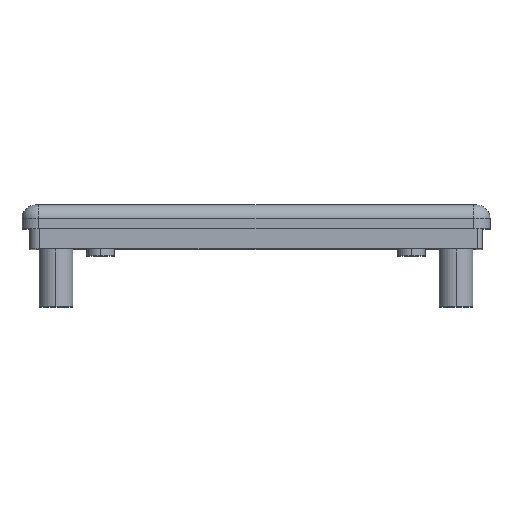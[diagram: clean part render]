
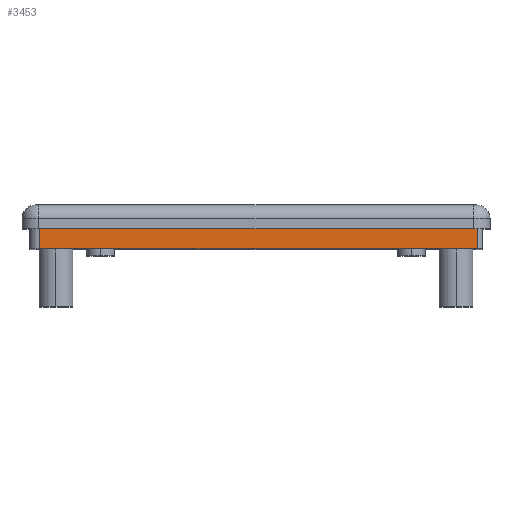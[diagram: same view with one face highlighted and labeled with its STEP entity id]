
A CAD part, top view. The second image highlights one B-rep face of the part: STEP entity #3453.
In plain terms, the highlighted planar face has unit normal (0, 0, 1).
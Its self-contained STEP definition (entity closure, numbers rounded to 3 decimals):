
#192 = EDGE_CURVE ( 'NONE', #2202, #3237, #3983, .T. ) ;
#285 = CARTESIAN_POINT ( 'NONE',  ( 32.725, 3., 33.475 ) ) ;
#322 = VECTOR ( 'NONE', #4253, 1000. ) ;
#371 = CARTESIAN_POINT ( 'NONE',  ( 32.725, 3., 33.475 ) ) ;
#557 = AXIS2_PLACEMENT_3D ( 'NONE', #4003, #4353, #2299 ) ;
#562 = DIRECTION ( 'NONE',  ( -1., 0., 0. ) ) ;
#735 = VERTEX_POINT ( 'NONE', #3215 ) ;
#862 = PLANE ( 'NONE',  #557 ) ;
#896 = ORIENTED_EDGE ( 'NONE', *, *, #192, .T. ) ;
#1150 = EDGE_CURVE ( 'NONE', #3097, #3237, #1689, .T. ) ;
#1334 = EDGE_LOOP ( 'NONE', ( #3234, #3205, #2938, #896 ) ) ;
#1491 = FACE_OUTER_BOUND ( 'NONE', #1334, .T. ) ;
#1563 = VECTOR ( 'NONE', #3753, 1000. ) ;
#1689 = LINE ( 'NONE', #2022, #1563 ) ;
#1848 = CARTESIAN_POINT ( 'NONE',  ( -31.975, 3., 33.475 ) ) ;
#1895 = CARTESIAN_POINT ( 'NONE',  ( -31.975, 3., 33.475 ) ) ;
#2022 = CARTESIAN_POINT ( 'NONE',  ( 32.725, 0., 33.475 ) ) ;
#2202 = VERTEX_POINT ( 'NONE', #1895 ) ;
#2299 = DIRECTION ( 'NONE',  ( 1., 0., 0. ) ) ;
#2416 = LINE ( 'NONE', #371, #4006 ) ;
#2463 = DIRECTION ( 'NONE',  ( 0., -1., 0. ) ) ;
#2820 = CARTESIAN_POINT ( 'NONE',  ( -31.975, 0., 33.475 ) ) ;
#2912 = LINE ( 'NONE', #285, #3686 ) ;
#2938 = ORIENTED_EDGE ( 'NONE', *, *, #3558, .T. ) ;
#3097 = VERTEX_POINT ( 'NONE', #4150 ) ;
#3205 = ORIENTED_EDGE ( 'NONE', *, *, #3825, .F. ) ;
#3215 = CARTESIAN_POINT ( 'NONE',  ( 32.725, 3., 33.475 ) ) ;
#3234 = ORIENTED_EDGE ( 'NONE', *, *, #1150, .F. ) ;
#3237 = VERTEX_POINT ( 'NONE', #2820 ) ;
#3453 = ADVANCED_FACE ( 'NONE', ( #1491 ), #862, .T. ) ;
#3558 = EDGE_CURVE ( 'NONE', #735, #2202, #2912, .T. ) ;
#3686 = VECTOR ( 'NONE', #562, 1000. ) ;
#3753 = DIRECTION ( 'NONE',  ( -1., 0., 0. ) ) ;
#3825 = EDGE_CURVE ( 'NONE', #735, #3097, #2416, .T. ) ;
#3983 = LINE ( 'NONE', #1848, #322 ) ;
#4003 = CARTESIAN_POINT ( 'NONE',  ( 32.725, 3., 33.475 ) ) ;
#4006 = VECTOR ( 'NONE', #2463, 1000. ) ;
#4150 = CARTESIAN_POINT ( 'NONE',  ( 32.725, 0., 33.475 ) ) ;
#4253 = DIRECTION ( 'NONE',  ( 0., -1., 0. ) ) ;
#4353 = DIRECTION ( 'NONE',  ( 0., 0., 1. ) ) ;
